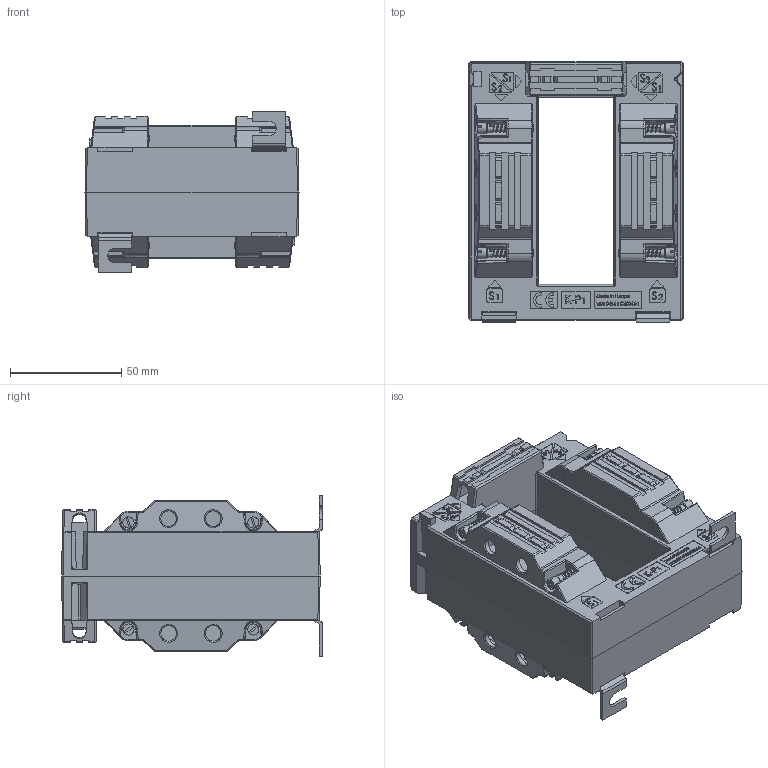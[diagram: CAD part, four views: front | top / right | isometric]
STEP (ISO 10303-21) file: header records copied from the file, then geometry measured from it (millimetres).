
FILE_DESCRIPTION(/* description */ (''),/* implementation_level */ '2;1');
FILE_NAME(/* name */ 'ASK83.4.stp',/* time_stamp */ '2024-03-04T13:52:51+01:00',/* author */ ('JDI'),/* organization */ (''),/* preprocessor_version */ 'ST-DEVELOPER v19.2',/* originating_system */ 'Autodesk Inventor 2023',/* authorisation */ '');
FILE_SCHEMA (('AUTOMOTIVE_DESIGN { 1 0 10303 214 3 1 1 }'));
Products named in the file (1): ASK83_4
Bounding box: 96 x 117 x 72 mm (x, y, z)
Volume: 359337.1 mm3; surface area: 77707.9 mm2
Topology: 1 solids, 1 shells, 2641 faces, 7143 edges, 4702 vertices
Faces by surface type: plane 1493, bspline 580, cylinder 521, cone 35, torus 10, sphere 2
Full cylindrical faces by diameter (mm): 0.93 x2, 3 x80, 3.75 x45, 4 x32, 5 x8, 7 x8
Entity records: 129744 total; most frequent: CARTESIAN_POINT 64825, ORIENTED_EDGE 14286, DIRECTION 10523, EDGE_CURVE 7143, LINE 4779, VECTOR 4779, VERTEX_POINT 4702, AXIS2_PLACEMENT_3D 2872
